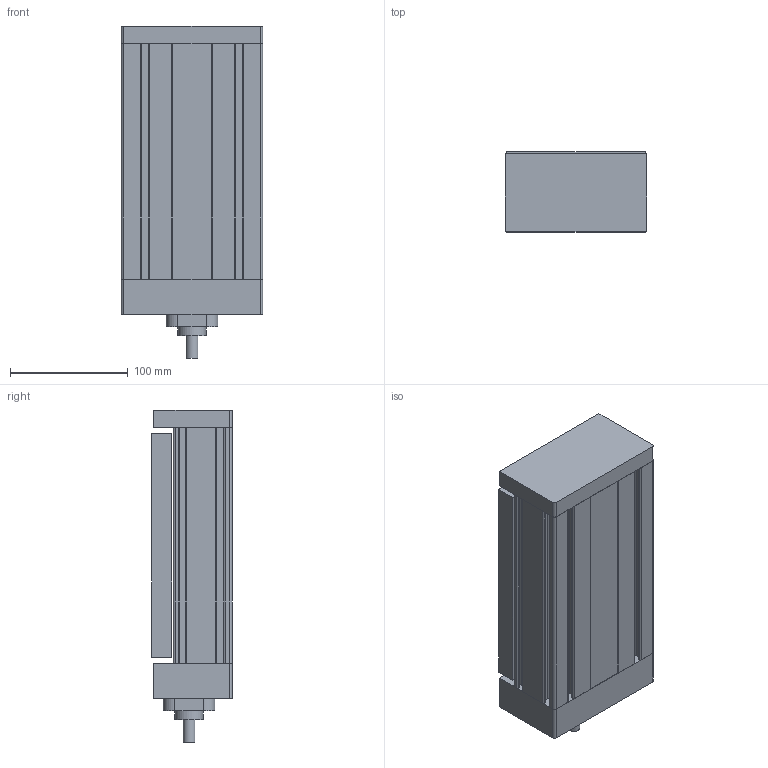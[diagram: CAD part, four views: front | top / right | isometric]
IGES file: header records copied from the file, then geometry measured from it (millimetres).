
Global section: file name: No Iges File Name specified; native system: Autodesk Inventor 2012; preprocessor: AutoDesk Inventor Iges Exporter R2012; author: disegnatore3; date: 20160912.131258; units: millimetre
Bounding box: 120 x 68 x 282 mm (x, y, z)
Volume: 1859832.7 mm3; surface area: 219147.1 mm2
Topology: 4 solids, 4 shells, 161 faces, 434 edges, 292 vertices
Faces by surface type: plane 83, cylinder 42, revolution 36
Full cylindrical faces by diameter (mm): 10 x1, 24 x1
